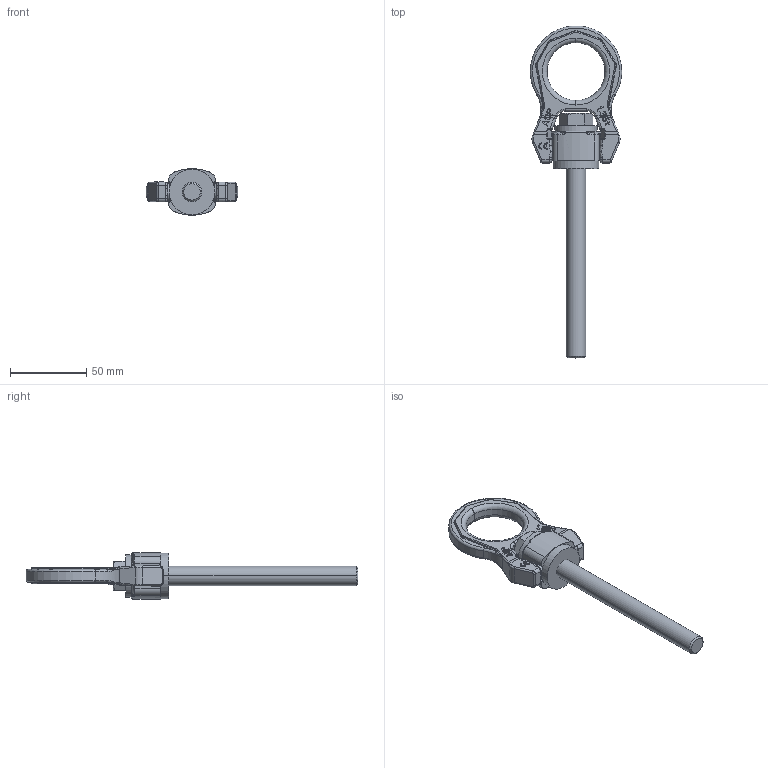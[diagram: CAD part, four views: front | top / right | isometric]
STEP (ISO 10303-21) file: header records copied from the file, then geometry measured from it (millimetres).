
FILE_DESCRIPTION((''),'2;1');
FILE_NAME('001-M35811-P-2_ASM','2019-06-24T',('anja.joas'),(''),'PRO/ENGINEER BY PARAMETRIC TECHNOLOGY CORPORATION, 2011490','PRO/ENGINEER BY PARAMETRIC TECHNOLOGY CORPORATION, 2011490','');
FILE_SCHEMA(('CONFIG_CONTROL_DESIGN'));
Length unit declared in the file: millimetre
Products named in the file (5): 001-M35810-P-20; 001-M35810-P-10; 001-M35810-P-60; 001-M35830-P-2; 001-M35811-P-2_ASM
Assembly tree (4 placements, depth 2):
  001-M35811-P-2_ASM
    001-M35810-P-20
    001-M35810-P-10
    001-M35810-P-60
    001-M35830-P-2
Bounding box: 59.96 x 217.82 x 30.41 mm (x, y, z)
Volume: 63724.8 mm3; surface area: 25923 mm2
Topology: 5 solids, 5 shells, 1098 faces, 2905 edges, 1849 vertices
Faces by surface type: plane 688, cylinder 199, bspline 116, torus 83, cone 8, sphere 4
Entity records: 39073 total; most frequent: CARTESIAN_POINT 12501, ORIENTED_EDGE 5810, DIRECTION 5079, EDGE_CURVE 2905, VECTOR 2035, LINE 2035, VERTEX_POINT 1849, AXIS2_PLACEMENT_3D 1522
